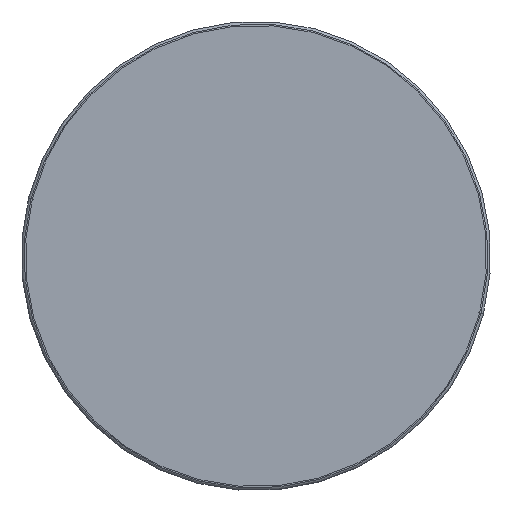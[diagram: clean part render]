
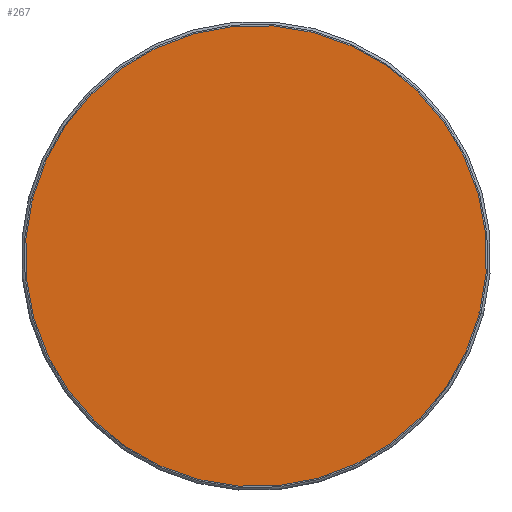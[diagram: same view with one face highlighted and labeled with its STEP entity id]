
A CAD part, front view. The second image highlights one B-rep face of the part: STEP entity #267.
In plain terms, the highlighted planar face has unit normal (0, -1, 0).
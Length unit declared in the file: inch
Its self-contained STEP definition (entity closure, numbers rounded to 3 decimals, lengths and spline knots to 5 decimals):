
#10 = DIRECTION ( 'NONE',  ( 1., 0., 0. ) ) ;
#14 = CIRCLE ( 'NONE', #83, 0.2905 ) ;
#37 = EDGE_LOOP ( 'NONE', ( #224, #202 ) ) ;
#64 = CARTESIAN_POINT ( 'NONE',  ( 0.28147, 0., -0.07187 ) ) ;
#69 = DIRECTION ( 'NONE',  ( 0., -1., 0. ) ) ;
#83 = AXIS2_PLACEMENT_3D ( 'NONE', #218, #69, #241 ) ;
#87 = FACE_OUTER_BOUND ( 'NONE', #37, .T. ) ;
#113 = PLANE ( 'NONE',  #133 ) ;
#117 = VERTEX_POINT ( 'NONE', #64 ) ;
#119 = VERTEX_POINT ( 'NONE', #212 ) ;
#129 = AXIS2_PLACEMENT_3D ( 'NONE', #171, #258, #132 ) ;
#130 = CARTESIAN_POINT ( 'NONE',  ( 0., 0., 0. ) ) ;
#132 = DIRECTION ( 'NONE',  ( -0.969, 0., 0.247 ) ) ;
#133 = AXIS2_PLACEMENT_3D ( 'NONE', #130, #252, #10 ) ;
#171 = CARTESIAN_POINT ( 'NONE',  ( 0., 0., 0. ) ) ;
#202 = ORIENTED_EDGE ( 'NONE', *, *, #232, .T. ) ;
#212 = CARTESIAN_POINT ( 'NONE',  ( -0.28147, 0., 0.07187 ) ) ;
#218 = CARTESIAN_POINT ( 'NONE',  ( 0., 0., 0. ) ) ;
#224 = ORIENTED_EDGE ( 'NONE', *, *, #255, .T. ) ;
#232 = EDGE_CURVE ( 'NONE', #117, #119, #246, .T. ) ;
#241 = DIRECTION ( 'NONE',  ( -0.969, 0., 0.247 ) ) ;
#246 = CIRCLE ( 'NONE', #129, 0.2905 ) ;
#252 = DIRECTION ( 'NONE',  ( 0., -1., 0. ) ) ;
#255 = EDGE_CURVE ( 'NONE', #119, #117, #14, .T. ) ;
#258 = DIRECTION ( 'NONE',  ( 0., -1., 0. ) ) ;
#267 = ADVANCED_FACE ( 'NONE', ( #87 ), #113, .T. ) ;
